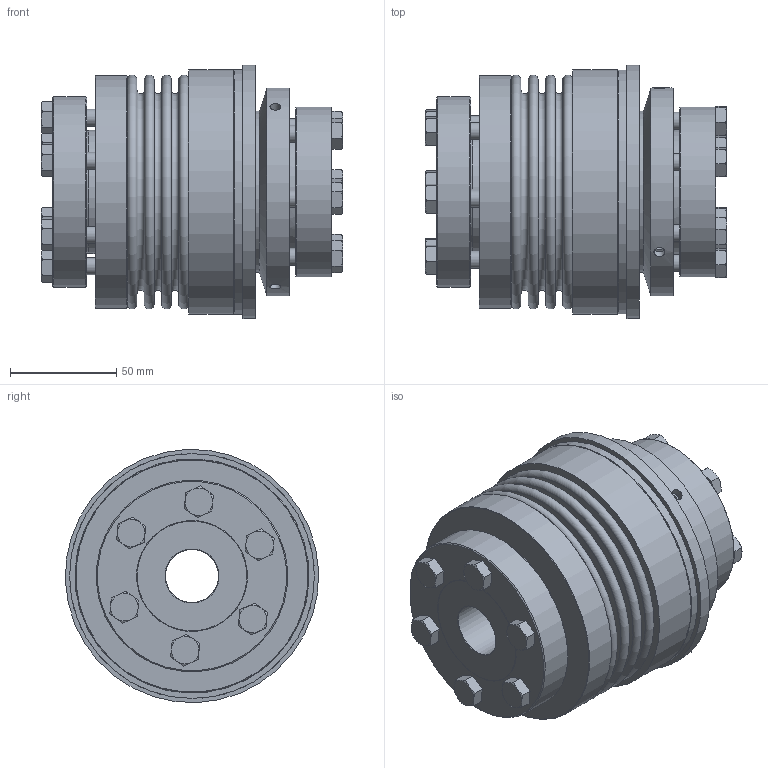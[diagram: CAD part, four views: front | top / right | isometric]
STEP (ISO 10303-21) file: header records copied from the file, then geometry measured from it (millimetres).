
FILE_DESCRIPTION( ( 'Unknown' ), '1' );
FILE_NAME( 'K:/Konstruktion/Korrigierte 3D Modelle/KBK-B-AA/KBK-BAA-300-141.stp', 'Unknown', ( 'Unknown' ), ( 'Unknown' ), 'PSStep 16.0.42', 'Unknown', ' ' );
FILE_SCHEMA( ( 'AUTOMOTIVE_DESIGN { 1 0 10303 214 1 1 1 1 }' ) );
Length unit declared in the file: millimetre
Products named in the file (18): KBK L-A-300 Grundkörper_0; din_en_24017_m8x30_0; Druckring 300_0; Stellring 300_0; Druckring L-A-300_0; A-300; BA6-300; Hex Screw GradeC_DIN_ISO 4018 - M8 x 30-NN; DR300_Standard; BA300_Standard; Assem1; BK300_Standard_0; Flansch BK300
Assembly tree (27 placements, depth 4):
  Assem1
    BK300_Standard_0
    Flansch BK300
    BA6-300
      Hex Screw GradeC_DIN_ISO 4018 - M8 x 30-NN  x6
      DR300_Standard
      BA300_Standard
    A-300
      Stellring 300_0
        Stellring 300_0
      Druckring 300_0
        Druckring 300_0
      KBK L-A-300 Grundkörper_0
        KBK L-A-300 Grundkörper_0
      Druckring L-A-300_0
        Druckring L-A-300_0
      din_en_24017_m8x30_0  x6
        din_en_24017_m8x30_0
Bounding box: 141.6 x 118.91 x 118.91 mm (x, y, z)
Volume: 686937.2 mm3; surface area: 232591.7 mm2
Topology: 20 solids, 20 shells, 393 faces, 822 edges, 521 vertices
Faces by surface type: plane 182, cone 118, cylinder 72, torus 21
Full cylindrical faces by diameter (mm): 3.242 x3, 5.2 x3, 6.647 x6, 6.8 x6, 8 x12, 8.5 x6, 9 x6, 11.63 x6, 25 x2, 52 x1, 55 x2, 57.995 x2, 76 x2, 80 x1, 83.5 x1, 88 x1, 90 x2, 98 x1, 98.5 x1, 99.8 x2, 101 x2, 109.5 x1, 115 x2, 119 x1
Entity records: 7148 total; most frequent: CARTESIAN_POINT 1229, DIRECTION 922, ORIENTED_EDGE 580, AXIS2_PLACEMENT_3D 437, EDGE_LOOP 386, EDGE_CURVE 290, FACE_OUTER_BOUND 271, VERTEX_POINT 250
